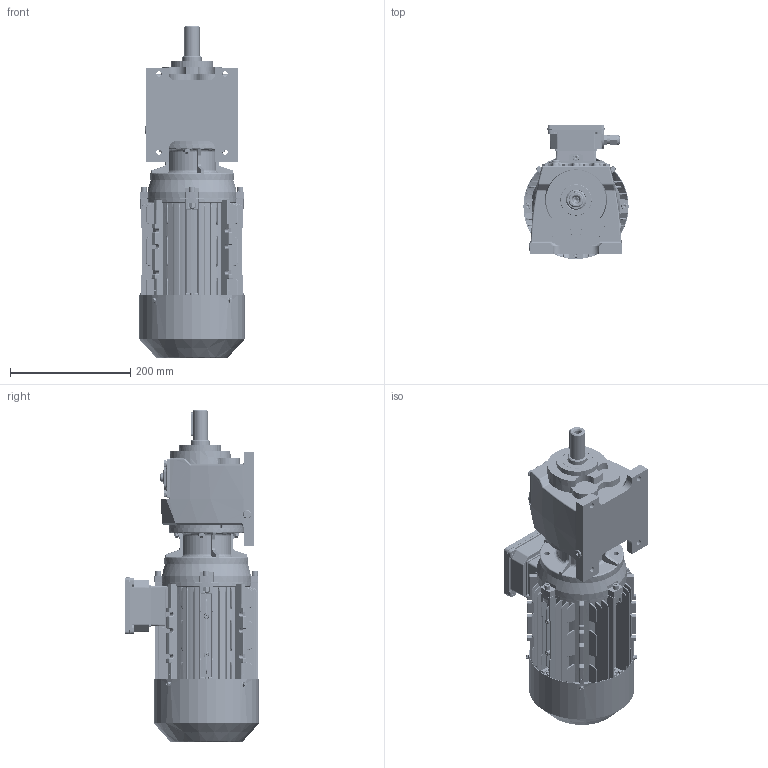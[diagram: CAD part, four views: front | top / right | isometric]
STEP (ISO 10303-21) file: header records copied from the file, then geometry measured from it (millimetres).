
FILE_DESCRIPTION (( 'STEP AP203' ), '1' );
FILE_NAME ('MV_103_0_MX-90L.STEP', '2018-11-23T11:07:18', ( '' ), ( '' ), 'SwSTEP 2.0', 'SolidWorks 2012', '' );
FILE_SCHEMA (( 'CONFIG_CONTROL_DESIGN' ));
Length unit declared in the file: millimetre
Products named in the file (26): 1390B14_Varsayìlan; ML12A_Varsayìlan_1; M103_Varsayìlan_1; MV_103_0_MX-90L; IE3-90L flange B14; MX3-90L_B14; IE3 90L  oil seal_1; IE3 90L cable glandsM16_1; hexagon nuts grade c gb_GB_FASTENER_NUT_SNC1 M6-N_1; cross recessed pan head screws gb_GB_CROSS_SCREWS_TYPE1 M5X10-10  H type-N_1; plain washers-n series-grade a gb_GB_FASTENER_WASHER_PWNA 4_1; IE3 90L grouding mark_1; cross recessed pan head screws gb_GB_CROSS_SCREWS_TYPE1 M4X5-5  H type-N_1; IE3 90L flange_1; hexagon flange head tapping screws gb_GB_SQUARE_AND_HEXAGON_TYPE137 ST4.2X9.5 F-N_1; circlips for shaft--type a large gb_GB_CONNECTING_PIECE_RING_RRA 19_1; hexagon socket head cap screws gb_GB_FASTENER_SCREWS_HSHCS M6X30-N_1; IE3 90L terminal box_1; cross recessed pan head tapping screws gb_GB_CROSS_SCREWS_TYPE128 ST4.2X9.5 H C-N_1; IE3 90L terminal box cover_1; spring lock washers--normal type gb_GB_FASTENER_WASHER_SW 6_1; IE3 90L fan cover_1; plain parallel keys_GB_CONNECTING_PIECE_KEYS_CSK 8X40_1; IE3 90L fan_1; IE3 90L casing_1; IE3 90L rotor_1
Assembly tree (55 placements, depth 3):
  MV_103_0_MX-90L
    M103_Varsayìlan_1
    1390B14_Varsayìlan
    ML12A_Varsayìlan_1
    MX3-90L_B14
      IE3 90L casing_1
      IE3 90L rotor_1
      IE3 90L fan_1
      IE3 90L fan cover_1
      plain parallel keys_GB_CONNECTING_PIECE_KEYS_CSK 8X40_1
      IE3 90L terminal box_1
      IE3 90L terminal box cover_1
      spring lock washers--normal type gb_GB_FASTENER_WASHER_SW 6_1  x8
      cross recessed pan head tapping screws gb_GB_CROSS_SCREWS_TYPE128 ST4.2X9.5 H C-N_1  x4
      hexagon flange head tapping screws gb_GB_SQUARE_AND_HEXAGON_TYPE137 ST4.2X9.5 F-N_1  x4
      hexagon socket head cap screws gb_GB_FASTENER_SCREWS_HSHCS M6X30-N_1  x8
      IE3 90L flange_1
      circlips for shaft--type a large gb_GB_CONNECTING_PIECE_RING_RRA 19_1
      IE3 90L grouding mark_1
      plain washers-n series-grade a gb_GB_FASTENER_WASHER_PWNA 4_1
      cross recessed pan head screws gb_GB_CROSS_SCREWS_TYPE1 M4X5-5  H type-N_1
      cross recessed pan head screws gb_GB_CROSS_SCREWS_TYPE1 M5X10-10  H type-N_1  x4
      IE3 90L cable glandsM16_1  x2
      IE3 90L  oil seal_1
      hexagon nuts grade c gb_GB_FASTENER_NUT_SNC1 M6-N_1  x7
      IE3-90L flange B14
Bounding box: 175.1 x 223.05 x 552.4 mm (x, y, z)
Volume: 4556754.5 mm3; surface area: 1022543.1 mm2
Topology: 54 solids, 54 shells, 5290 faces, 13407 edges, 8240 vertices
Faces by surface type: plane 1889, cylinder 1624, bspline 1063, cone 497, torus 117, sphere 100
Entity records: 191068 total; most frequent: CARTESIAN_POINT 84615, ORIENTED_EDGE 23504, DIRECTION 18570, EDGE_CURVE 11752, VERTEX_POINT 7283, AXIS2_PLACEMENT_3D 6789, EDGE_LOOP 5043, LINE 4992
